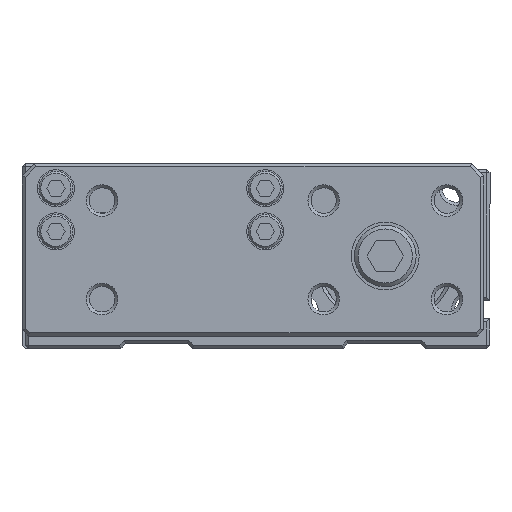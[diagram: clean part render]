
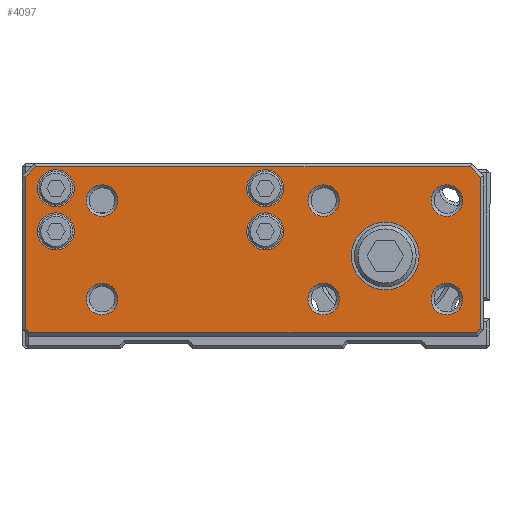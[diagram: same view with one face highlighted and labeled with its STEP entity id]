
A CAD part, front view. The second image highlights one B-rep face of the part: STEP entity #4097.
In plain terms, the highlighted planar face has unit normal (0, -1, 0).
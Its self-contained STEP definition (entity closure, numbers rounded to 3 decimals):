
#3901=CARTESIAN_POINT('',(-7.433,-13.8,9.0));
#3902=VERTEX_POINT('',#3901);
#3903=CARTESIAN_POINT('',(-10.,-13.8,9.0));
#3904=DIRECTION('',(0.0,-1.0,0.0));
#3905=DIRECTION('',(-1.0,0.0,0.0));
#3906=AXIS2_PLACEMENT_3D('',#3903,#3904,#3905);
#3907=CIRCLE('',#3906,2.567);
#3908=EDGE_CURVE('',#3902,#3902,#3907,.T.);
#3913=CARTESIAN_POINT('',(-59.0,-13.8,15.0));
#3914=DIRECTION('',(0.0,-1.0,0.0));
#3915=DIRECTION('',(0.0,0.0,-1.0));
#3916=AXIS2_PLACEMENT_3D('',#3913,#3914,#3915);
#3917=PLANE('',#3916);
#3918=CARTESIAN_POINT('',(15.5,-13.8,12.793));
#3919=VERTEX_POINT('',#3918);
#3920=CARTESIAN_POINT('',(15.5,-13.8,-11.793));
#3921=VERTEX_POINT('',#3920);
#3922=CARTESIAN_POINT('',(15.5,-13.8,12.793));
#3923=DIRECTION('',(0.0,0.0,-1.0));
#3924=VECTOR('',#3923,24.586);
#3925=LINE('',#3922,#3924);
#3926=EDGE_CURVE('',#3919,#3921,#3925,.T.);
#3927=ORIENTED_EDGE('',*,*,#3926,.F.);
#3928=CARTESIAN_POINT('',(13.793,-13.8,14.5));
#3929=VERTEX_POINT('',#3928);
#3930=CARTESIAN_POINT('',(13.793,-13.8,14.5));
#3931=DIRECTION('',(0.707,0.0,-0.707));
#3932=VECTOR('',#3931,2.414);
#3933=LINE('',#3930,#3932);
#3934=EDGE_CURVE('',#3929,#3919,#3933,.T.);
#3935=ORIENTED_EDGE('',*,*,#3934,.F.);
#3936=CARTESIAN_POINT('',(-56.793,-13.8,14.5));
#3937=VERTEX_POINT('',#3936);
#3938=CARTESIAN_POINT('',(-56.793,-13.8,14.5));
#3939=DIRECTION('',(1.0,0.0,0.0));
#3940=VECTOR('',#3939,70.586);
#3941=LINE('',#3938,#3940);
#3942=EDGE_CURVE('',#3937,#3929,#3941,.T.);
#3943=ORIENTED_EDGE('',*,*,#3942,.F.);
#3944=CARTESIAN_POINT('',(-58.5,-13.8,12.793));
#3945=VERTEX_POINT('',#3944);
#3946=CARTESIAN_POINT('',(-58.5,-13.8,12.793));
#3947=DIRECTION('',(0.707,0.0,0.707));
#3948=VECTOR('',#3947,2.414);
#3949=LINE('',#3946,#3948);
#3950=EDGE_CURVE('',#3945,#3937,#3949,.T.);
#3951=ORIENTED_EDGE('',*,*,#3950,.F.);
#3952=CARTESIAN_POINT('',(-58.5,-13.8,-11.793));
#3953=VERTEX_POINT('',#3952);
#3954=CARTESIAN_POINT('',(-58.5,-13.8,-11.793));
#3955=DIRECTION('',(0.0,0.0,1.0));
#3956=VECTOR('',#3955,24.586);
#3957=LINE('',#3954,#3956);
#3958=EDGE_CURVE('',#3953,#3945,#3957,.T.);
#3959=ORIENTED_EDGE('',*,*,#3958,.F.);
#3960=CARTESIAN_POINT('',(-57.793,-13.8,-12.5));
#3961=VERTEX_POINT('',#3960);
#3962=CARTESIAN_POINT('',(-57.793,-13.8,-12.5));
#3963=DIRECTION('',(-0.707,0.0,0.707));
#3964=VECTOR('',#3963,1.);
#3965=LINE('',#3962,#3964);
#3966=EDGE_CURVE('',#3961,#3953,#3965,.T.);
#3967=ORIENTED_EDGE('',*,*,#3966,.F.);
#3968=CARTESIAN_POINT('',(14.793,-13.8,-12.5));
#3969=VERTEX_POINT('',#3968);
#3970=CARTESIAN_POINT('',(14.793,-13.8,-12.5));
#3971=DIRECTION('',(-1.0,0.0,0.0));
#3972=VECTOR('',#3971,72.586);
#3973=LINE('',#3970,#3972);
#3974=EDGE_CURVE('',#3969,#3961,#3973,.T.);
#3975=ORIENTED_EDGE('',*,*,#3974,.F.);
#3976=CARTESIAN_POINT('',(15.5,-13.8,-11.793));
#3977=DIRECTION('',(-0.707,0.0,-0.707));
#3978=VECTOR('',#3977,1.);
#3979=LINE('',#3976,#3978);
#3980=EDGE_CURVE('',#3921,#3969,#3979,.T.);
#3981=ORIENTED_EDGE('',*,*,#3980,.F.);
#3982=EDGE_LOOP('',(#3927,#3935,#3943,#3951,#3959,#3967,#3975,#3981));
#3983=FACE_OUTER_BOUND('',#3982,.T.);
#3984=CARTESIAN_POINT('',(-7.433,-13.8,-7.));
#3985=VERTEX_POINT('',#3984);
#3986=CARTESIAN_POINT('',(-10.,-13.8,-7.));
#3987=DIRECTION('',(0.0,-1.0,0.0));
#3988=DIRECTION('',(-1.0,0.0,0.0));
#3989=AXIS2_PLACEMENT_3D('',#3986,#3987,#3988);
#3990=CIRCLE('',#3989,2.567);
#3991=EDGE_CURVE('',#3985,#3985,#3990,.T.);
#3992=ORIENTED_EDGE('',*,*,#3991,.F.);
#3993=EDGE_LOOP('',(#3992));
#3994=FACE_BOUND('',#3993,.T.);
#3995=CARTESIAN_POINT('',(12.567,-13.8,-7.));
#3996=VERTEX_POINT('',#3995);
#3997=CARTESIAN_POINT('',(10.0,-13.8,-7.));
#3998=DIRECTION('',(0.0,-1.0,0.0));
#3999=DIRECTION('',(-1.0,0.0,0.0));
#4000=AXIS2_PLACEMENT_3D('',#3997,#3998,#3999);
#4001=CIRCLE('',#4000,2.567);
#4002=EDGE_CURVE('',#3996,#3996,#4001,.T.);
#4003=ORIENTED_EDGE('',*,*,#4002,.F.);
#4004=EDGE_LOOP('',(#4003));
#4005=FACE_BOUND('',#4004,.T.);
#4006=CARTESIAN_POINT('',(12.567,-13.8,9.));
#4007=VERTEX_POINT('',#4006);
#4008=CARTESIAN_POINT('',(10.0,-13.8,9.));
#4009=DIRECTION('',(0.0,-1.0,0.0));
#4010=DIRECTION('',(-1.0,0.0,0.0));
#4011=AXIS2_PLACEMENT_3D('',#4008,#4009,#4010);
#4012=CIRCLE('',#4011,2.567);
#4013=EDGE_CURVE('',#4007,#4007,#4012,.T.);
#4014=ORIENTED_EDGE('',*,*,#4013,.F.);
#4015=EDGE_LOOP('',(#4014));
#4016=FACE_BOUND('',#4015,.T.);
#4017=CARTESIAN_POINT('',(5.5,-13.8,0.0));
#4018=VERTEX_POINT('',#4017);
#4019=CARTESIAN_POINT('',(0.,-13.8,0.0));
#4020=DIRECTION('',(0.0,1.0,0.0));
#4021=DIRECTION('',(1.0,0.0,0.0));
#4022=AXIS2_PLACEMENT_3D('',#4019,#4020,#4021);
#4023=CIRCLE('',#4022,5.5);
#4024=EDGE_CURVE('',#4018,#4018,#4023,.T.);
#4025=ORIENTED_EDGE('',*,*,#4024,.T.);
#4026=EDGE_LOOP('',(#4025));
#4027=FACE_BOUND('',#4026,.T.);
#4028=CARTESIAN_POINT('',(-50.5,-13.8,11.));
#4029=VERTEX_POINT('',#4028);
#4030=CARTESIAN_POINT('',(-53.5,-13.8,11.));
#4031=DIRECTION('',(0.0,1.0,0.0));
#4032=DIRECTION('',(1.0,0.0,0.0));
#4033=AXIS2_PLACEMENT_3D('',#4030,#4031,#4032);
#4034=CIRCLE('',#4033,3.);
#4035=EDGE_CURVE('',#4029,#4029,#4034,.T.);
#4036=ORIENTED_EDGE('',*,*,#4035,.T.);
#4037=EDGE_LOOP('',(#4036));
#4038=FACE_BOUND('',#4037,.T.);
#4039=CARTESIAN_POINT('',(-50.5,-13.8,4.));
#4040=VERTEX_POINT('',#4039);
#4041=CARTESIAN_POINT('',(-53.5,-13.8,4.));
#4042=DIRECTION('',(0.0,1.0,0.0));
#4043=DIRECTION('',(1.0,0.0,0.0));
#4044=AXIS2_PLACEMENT_3D('',#4041,#4042,#4043);
#4045=CIRCLE('',#4044,3.);
#4046=EDGE_CURVE('',#4040,#4040,#4045,.T.);
#4047=ORIENTED_EDGE('',*,*,#4046,.T.);
#4048=EDGE_LOOP('',(#4047));
#4049=FACE_BOUND('',#4048,.T.);
#4050=CARTESIAN_POINT('',(-16.5,-13.8,11.));
#4051=VERTEX_POINT('',#4050);
#4052=CARTESIAN_POINT('',(-19.5,-13.8,11.));
#4053=DIRECTION('',(0.0,1.0,0.0));
#4054=DIRECTION('',(1.0,0.0,0.0));
#4055=AXIS2_PLACEMENT_3D('',#4052,#4053,#4054);
#4056=CIRCLE('',#4055,3.);
#4057=EDGE_CURVE('',#4051,#4051,#4056,.T.);
#4058=ORIENTED_EDGE('',*,*,#4057,.T.);
#4059=EDGE_LOOP('',(#4058));
#4060=FACE_BOUND('',#4059,.T.);
#4061=CARTESIAN_POINT('',(-16.5,-13.8,4.));
#4062=VERTEX_POINT('',#4061);
#4063=CARTESIAN_POINT('',(-19.5,-13.8,4.));
#4064=DIRECTION('',(0.0,1.0,0.0));
#4065=DIRECTION('',(1.0,0.0,0.0));
#4066=AXIS2_PLACEMENT_3D('',#4063,#4064,#4065);
#4067=CIRCLE('',#4066,3.);
#4068=EDGE_CURVE('',#4062,#4062,#4067,.T.);
#4069=ORIENTED_EDGE('',*,*,#4068,.T.);
#4070=EDGE_LOOP('',(#4069));
#4071=FACE_BOUND('',#4070,.T.);
#4072=CARTESIAN_POINT('',(-43.433,-13.8,-7.));
#4073=VERTEX_POINT('',#4072);
#4074=CARTESIAN_POINT('',(-46.0,-13.8,-7.));
#4075=DIRECTION('',(0.0,-1.0,0.0));
#4076=DIRECTION('',(-1.0,0.0,0.0));
#4077=AXIS2_PLACEMENT_3D('',#4074,#4075,#4076);
#4078=CIRCLE('',#4077,2.567);
#4079=EDGE_CURVE('',#4073,#4073,#4078,.T.);
#4080=ORIENTED_EDGE('',*,*,#4079,.F.);
#4081=EDGE_LOOP('',(#4080));
#4082=FACE_BOUND('',#4081,.T.);
#4083=CARTESIAN_POINT('',(-43.433,-13.8,9.));
#4084=VERTEX_POINT('',#4083);
#4085=CARTESIAN_POINT('',(-46.,-13.8,9.));
#4086=DIRECTION('',(0.0,-1.0,0.0));
#4087=DIRECTION('',(-1.0,0.0,0.0));
#4088=AXIS2_PLACEMENT_3D('',#4085,#4086,#4087);
#4089=CIRCLE('',#4088,2.567);
#4090=EDGE_CURVE('',#4084,#4084,#4089,.T.);
#4091=ORIENTED_EDGE('',*,*,#4090,.F.);
#4092=EDGE_LOOP('',(#4091));
#4093=FACE_BOUND('',#4092,.T.);
#4094=ORIENTED_EDGE('',*,*,#3908,.F.);
#4095=EDGE_LOOP('',(#4094));
#4096=FACE_BOUND('',#4095,.T.);
#4097=ADVANCED_FACE('',(#3983,#3994,#4005,#4016,#4027,#4038,#4049,#4060,#4071,#4082,#4093,#4096),#3917,.T.);
